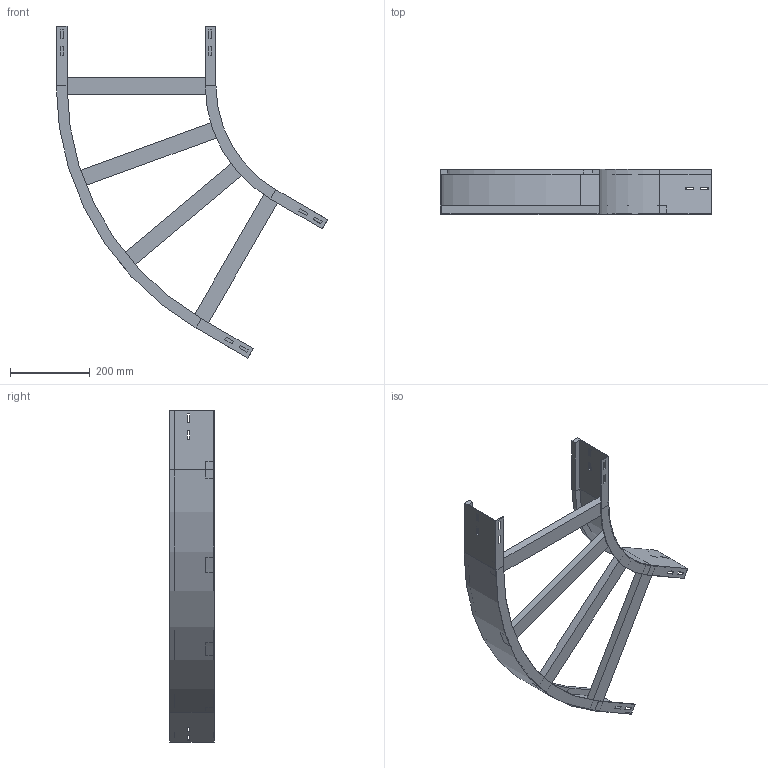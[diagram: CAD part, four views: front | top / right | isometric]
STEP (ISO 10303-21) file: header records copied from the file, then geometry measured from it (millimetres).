
FILE_DESCRIPTION (( 'STEP AP214' ), '1' );
FILE_NAME ('A2_13B3J400.step', '2025-02-21T15:19:28', ( '' ), ( '' ), 'SwSTEP 2.0', 'SolidWorks 2023', '' );
FILE_SCHEMA (( 'AUTOMOTIVE_DESIGN' ));
Length unit declared in the file: millimetre
Products named in the file (4): A2_13B3J400; A2_LONGH.ESTERNO 60°_H112.5_R300+400; A2_LONGH.INTERNO 60°_H112.5_R300; TRAVERSINO_400
Assembly tree (6 placements, depth 2):
  A2_13B3J400
    A2_LONGH.INTERNO 60°_H112.5_R300
    A2_LONGH.ESTERNO 60°_H112.5_R300+400
    TRAVERSINO_400  x4
Bounding box: 679.9 x 112.5 x 831.22 mm (x, y, z)
Volume: 2047353.3 mm3; surface area: 709218.4 mm2
Topology: 6 solids, 6 shells, 140 faces, 352 edges, 224 vertices
Faces by surface type: plane 132, cylinder 8
Entity records: 3829 total; most frequent: CARTESIAN_POINT 647, ORIENTED_EDGE 632, DIRECTION 594, EDGE_CURVE 316, VECTOR 300, LINE 300, VERTEX_POINT 200, EDGE_LOOP 154
